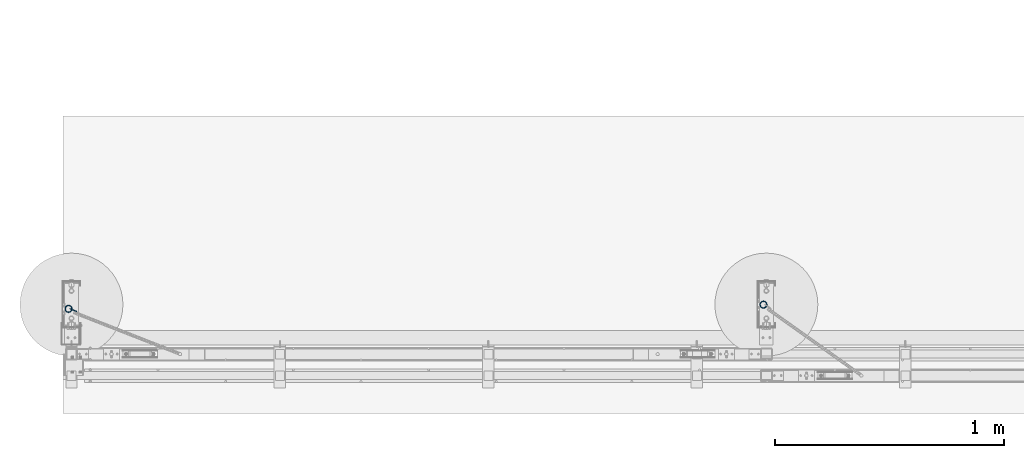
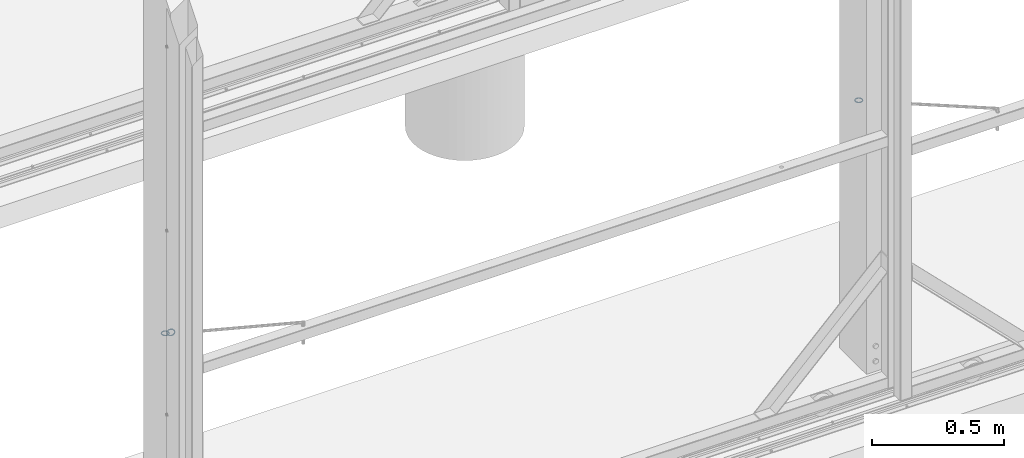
# One storey, part 84 of 91: 3 beams, 3 elements without a shape of their own.
"""IFC2X3 building model written with IfcOpenShell, lengths in millimetres."""

from ifc_helpers import new_model, si_unit, frame, origin_with_axes, place, context, subcontext, project, spatial, faceted_brep, material, type_object, element, aggregate, save


model = new_model("IFC2X3")

# Units and contexts
model_context = context("Model", 3, precision=1e-05, world=origin_with_axes())
body_context = subcontext(model_context, "Body", "Model", "MODEL_VIEW")
ifc_project = project(units=[si_unit("LENGTHUNIT", "METRE", prefix="MILLI"), si_unit("AREAUNIT", "SQUARE_METRE"), si_unit("VOLUMEUNIT", "CUBIC_METRE"), si_unit("MASSUNIT", "GRAM", prefix="KILO"), si_unit("TIMEUNIT", "SECOND"), si_unit("PLANEANGLEUNIT", "RADIAN"), si_unit("SOLIDANGLEUNIT", "STERADIAN"), si_unit("THERMODYNAMICTEMPERATUREUNIT", "DEGREE_CELSIUS"), si_unit("LUMINOUSINTENSITYUNIT", "LUMEN")], contexts=[model_context])

# Site, building, storey
site_placement = place(None, origin_with_axes())
site = spatial("IfcSite", under=ifc_project, at=site_placement, Name="Undefined", CompositionType="ELEMENT")
building_placement = place(site_placement, origin_with_axes())
building = spatial("IfcBuilding", under=site, at=building_placement, Name="Undefined", CompositionType="ELEMENT")
storey_placement = place(building_placement, origin_with_axes())
storey = spatial("IfcBuildingStorey", under=building, at=storey_placement, Name="Undefined", CompositionType="ELEMENT", Elevation=0.0)

# Assembly, beam
assembly_1_placement = place(storey_placement, origin_with_axes())
assembly_1 = element("IfcElementAssembly", 1, at=assembly_1_placement, inside=storey, Name="LINKS", AssemblyPlace="NOTDEFINED", PredefinedType="RIGID_FRAME")
ifc_material = material(Name="STEEL/250")
beam_type = type_object("IfcBeamType", Name="D5", PredefinedType="NOTDEFINED")
beam_1_placement = place(assembly_1_placement, frame((-113786.143040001, 84913.6448728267, 1162.34), z_axis=(0.0, 1.0, 0.0), x_axis=(1.0, 0.0, 0.0)))
beam_1 = element("IfcBeam", 2, at=beam_1_placement, type_object=beam_type, material=ifc_material, Name="LINKS", ObjectType="D5", context=body_context, shape_type="Brep", body=[
    faceted_brep([(31.767766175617, -1.76776700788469, 14.8999996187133), (32.4999992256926, -5.6170392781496e-08, 14.8999996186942), (32.4999992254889, -5.59666659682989e-08, 15.1000003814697), (31.7677661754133, -1.76776700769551, 15.1000003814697), (31.7677661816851, 1.76776689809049, 14.8999996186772), (31.7677661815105, 1.76776689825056, 15.1000003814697), (29.9999992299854, 2.49999994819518, 14.8999996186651), (29.9999992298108, 2.49999994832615, 15.1000003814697), (28.2322322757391, 1.76776690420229, 14.8999996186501), (28.232232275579, 1.76776690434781, 15.1000003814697), (27.4999992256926, -4.74974513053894e-08, 14.8999996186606), (27.4999992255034, -4.73810359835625e-08, 15.1000003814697), (28.2322322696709, -1.76776700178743, 14.8999996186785), (28.2322322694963, -1.76776700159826, 15.1000003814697), (29.999999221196, -2.5000000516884, 14.8999996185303), (29.9999992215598, -2.50000005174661, 15.100000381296), (28.0037777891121, -2.50000004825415, 22.5500001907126), (26.4728467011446, -1.76776699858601, 21.6661167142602), (25.8387142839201, -4.44706529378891e-08, 21.3000001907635), (26.4728467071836, 1.76776690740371, 21.666116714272), (28.0037777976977, 2.49999995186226, 22.5500001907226), (29.5347088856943, 1.76776690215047, 23.4338836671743), (30.1688413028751, -5.19503373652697e-08, 23.8000001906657), (29.5347088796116, -1.76776700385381, 23.4338836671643), (15.1008655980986, -2.49999993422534, 30.0000000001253), (22.5499994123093, -2.50000003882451, 28.0037785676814), (23.43388289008, -1.76776699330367, 29.5347096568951), (15.1008656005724, -1.767766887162, 31.7677669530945), (15.1008656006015, -1.76776688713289, 28.2322330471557), (21.6661159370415, -1.76776699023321, 26.4728474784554), (15.1008656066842, 6.58328644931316e-08, 27.5000000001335), (21.2999994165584, -3.6612618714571e-08, 25.8387150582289), (15.1008670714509, 1.76776695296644, 28.2322330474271), (21.6661159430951, 1.76776691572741, 26.4728474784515), (15.1008656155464, 2.50000006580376, 30.0), (22.5499994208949, 2.49999996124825, 28.0037785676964), (15.1000003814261, 1.76776695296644, 31.767766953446), (23.433882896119, 1.76776691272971, 29.5347096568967), (15.1008656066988, 6.58183125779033e-08, 32.5000000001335), (23.7999994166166, -4.09199856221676e-08, 30.1688420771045), (29.5347088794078, -1.76776700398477, 6.56611633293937), (28.0037777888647, -2.50000004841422, 7.44999980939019), (30.1688413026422, -5.2081304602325e-08, 6.19999980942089), (29.5347088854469, 1.7677669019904, 6.56611633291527), (28.0037777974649, 2.49999995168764, 7.44999980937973), (26.4728467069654, 1.7677669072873, 8.33388328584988), (25.8387142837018, -4.46161720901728e-08, 8.69999980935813), (26.4728467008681, -1.76776699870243, 8.33388328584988), (22.5499994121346, -2.50000003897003, 1.99622143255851), (21.6661159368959, -1.76776699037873, 3.52715252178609), (23.4338828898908, -1.76776699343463, 0.465290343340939), (23.7999994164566, -4.10655047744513e-08, -0.168842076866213), (23.4338828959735, 1.76776691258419, 0.465290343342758), (22.5499994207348, 2.49999996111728, 1.99622143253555), (21.666115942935, 1.76776691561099, 3.52715252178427), (21.2999994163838, -3.67290340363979e-08, 4.16128494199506), (15.100865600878, -1.76776688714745, 1.76776695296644), (15.1008656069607, 6.58183125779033e-08, 2.5), (15.1008655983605, -2.49999993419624, 0.0), (15.100865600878, -1.76776688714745, -1.76776695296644), (15.1008656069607, 6.58183125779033e-08, -2.5), (15.1008670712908, 1.76776695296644, -1.76776695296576), (15.1008656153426, 2.50000006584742, -8.84483597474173e-11), (15.1000003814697, 1.76776695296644, 1.76776695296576), (-1.56690095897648, 1.76776707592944, 14.899999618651), (-2.29913401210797, 1.25408405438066e-07, 14.8999996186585), (-2.2991340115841, 1.25524820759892e-07, 15.1000003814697), (-1.56690095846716, 1.7677670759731, 15.1000003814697), (-1.56690097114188, -1.76776683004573, 14.8999996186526), (-1.56690097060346, -1.76776682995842, 15.1000003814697), (0.200865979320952, -2.49999988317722, 14.8999996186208), (0.200865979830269, -2.49999988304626, 15.1000003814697), (1.96863293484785, -1.76776684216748, 14.8999996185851), (1.96863293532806, -1.76776684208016, 15.1000003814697), (2.70086598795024, 1.08309905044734e-07, 14.899999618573), (2.7008659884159, 1.08382664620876e-07, 15.1000003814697), (1.96863294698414, 1.7677670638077, 14.8999996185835), (1.96863294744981, 1.7677670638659, 15.1000003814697), (0.200865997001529, 2.50000011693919, 14.8999996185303), (0.200865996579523, 2.50000011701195, 15.1000003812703), (2.19708742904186, 2.5000001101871, 22.5500001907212), (3.72801851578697, 1.76776705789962, 21.6661167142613), (4.36215092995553, 1.02707417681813e-07, 21.3000001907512), (3.72801850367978, -1.76776684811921, 21.6661167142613), (2.19708741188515, -2.49999988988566, 22.5500001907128), (0.666156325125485, -1.76776683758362, 23.43388366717), (0.0320239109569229, 1.17594026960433e-07, 23.8000001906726), (0.66615633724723, 1.76776706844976, 23.4338836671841), (7.65086580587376, 2.50000009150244, 28.003778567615), (6.76698232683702, 1.76776704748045, 29.5347096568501), (8.53474927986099, 1.76776704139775, 26.4728474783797), (8.90086579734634, 8.71368683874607e-08, 25.8387150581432), (8.53474926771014, -1.76776686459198, 26.4728474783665), (7.65086578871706, -2.49999990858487, 28.0037785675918), (6.76698231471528, -1.76776685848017, 29.534709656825), (6.40086579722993, 9.57516022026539e-08, 30.1688420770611), (0.66615633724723, 1.76776706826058, 6.56611633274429), (2.19708742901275, 2.50000011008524, 7.44999980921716), (0.032023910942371, 1.1743395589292e-07, 6.19999980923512), (0.666156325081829, -1.76776683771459, 6.5661163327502), (2.19708741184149, -2.49999988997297, 7.44999980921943), (3.72801850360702, -1.76776684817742, 8.33388328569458), (4.36215092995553, 1.02634658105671e-07, 8.69999980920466), (3.72801851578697, 1.76776705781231, 8.33388328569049), (7.65086580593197, 2.50000009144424, 1.99622143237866), (8.5347492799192, 1.76776704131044, 3.52715252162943), (6.76698232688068, 1.76776704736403, 0.465290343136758), (6.40086579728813, 9.5635186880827e-08, -0.168842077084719), (6.76698231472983, -1.76776685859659, 0.465290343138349), (7.65086578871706, -2.49999990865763, 1.99622143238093), (8.53474926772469, -1.76776686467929, 3.52715252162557), (8.90086579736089, 8.70786607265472e-08, 4.16128494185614)], [[[0, 1, 2, 3]], [[1, 4, 5, 2]], [[4, 6, 7, 5]], [[6, 8, 9, 7]], [[8, 10, 11, 9]], [[10, 12, 13, 11]], [[12, 14, 15, 13]], [[13, 15, 16, 17]], [[11, 13, 17, 18]], [[9, 11, 18, 19]], [[7, 9, 19, 20]], [[5, 7, 20, 21]], [[2, 5, 21, 22]], [[3, 2, 22, 23]], [[24, 25, 26, 27]], [[28, 29, 25, 24]], [[30, 31, 29, 28]], [[32, 33, 31, 30]], [[34, 35, 33, 32]], [[36, 37, 35, 34]], [[38, 39, 37, 36]], [[27, 26, 39, 38]], [[22, 39, 26, 23]], [[21, 37, 39, 22]], [[20, 35, 37, 21]], [[19, 33, 35, 20]], [[18, 31, 33, 19]], [[17, 29, 31, 18]], [[16, 25, 29, 17]], [[23, 26, 25, 16]], [[15, 3, 23, 16]], [[14, 0, 3, 15]], [[40, 0, 14, 41]], [[42, 1, 0, 40]], [[43, 4, 1, 42]], [[44, 6, 4, 43]], [[45, 8, 6, 44]], [[46, 10, 8, 45]], [[47, 12, 10, 46]], [[41, 14, 12, 47]], [[48, 41, 47, 49]], [[50, 40, 41, 48]], [[51, 42, 40, 50]], [[52, 43, 42, 51]], [[53, 44, 43, 52]], [[54, 45, 44, 53]], [[55, 46, 45, 54]], [[49, 47, 46, 55]], [[56, 49, 55, 57]], [[58, 48, 49, 56]], [[59, 50, 48, 58]], [[60, 51, 50, 59]], [[61, 52, 51, 60]], [[62, 53, 52, 61]], [[63, 54, 53, 62]], [[57, 55, 54, 63]], [[64, 65, 66, 67]], [[65, 68, 69, 66]], [[68, 70, 71, 69]], [[70, 72, 73, 71]], [[72, 74, 75, 73]], [[74, 76, 77, 75]], [[76, 78, 79, 77]], [[77, 79, 80, 81]], [[75, 77, 81, 82]], [[73, 75, 82, 83]], [[71, 73, 83, 84]], [[69, 71, 84, 85]], [[66, 69, 85, 86]], [[67, 66, 86, 87]], [[88, 89, 36, 34]], [[90, 88, 34, 32]], [[91, 90, 32, 30]], [[92, 91, 30, 28]], [[93, 92, 28, 24]], [[94, 93, 24, 27]], [[95, 94, 27, 38]], [[89, 95, 38, 36]], [[86, 95, 89, 87]], [[85, 94, 95, 86]], [[84, 93, 94, 85]], [[83, 92, 93, 84]], [[82, 91, 92, 83]], [[81, 90, 91, 82]], [[80, 88, 90, 81]], [[87, 89, 88, 80]], [[79, 67, 87, 80]], [[78, 64, 67, 79]], [[96, 64, 78, 97]], [[98, 65, 64, 96]], [[99, 68, 65, 98]], [[100, 70, 68, 99]], [[101, 72, 70, 100]], [[102, 74, 72, 101]], [[103, 76, 74, 102]], [[97, 78, 76, 103]], [[104, 97, 103, 105]], [[106, 96, 97, 104]], [[107, 98, 96, 106]], [[108, 99, 98, 107]], [[109, 100, 99, 108]], [[110, 101, 100, 109]], [[111, 102, 101, 110]], [[105, 103, 102, 111]], [[105, 111, 57, 63]], [[104, 105, 63, 62]], [[106, 104, 62, 61]], [[107, 106, 61, 60]], [[108, 107, 60, 59]], [[109, 108, 59, 58]], [[110, 109, 58, 56]], [[111, 110, 56, 57]]]),
])
aggregate(assembly_1, [beam_1])

assembly_2_placement = place(storey_placement, origin_with_axes())
assembly_2 = element("IfcElementAssembly", 3, at=assembly_2_placement, inside=storey, Name="LINKS", AssemblyPlace="NOTDEFINED", PredefinedType="RIGID_FRAME")
beam_2_placement = place(assembly_2_placement, frame((-116823.643040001, 84894.8948728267, 1162.34), z_axis=(0.0, 1.0, 0.0), x_axis=(1.0, 0.0, 0.0)))
beam_2 = element("IfcBeam", 4, at=beam_2_placement, type_object=beam_type, material=ifc_material, Name="LINKS", ObjectType="D5", context=body_context, shape_type="Brep", body=[
    faceted_brep([(31.767766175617, -1.76776700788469, 14.8999996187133), (32.4999992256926, -5.6170392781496e-08, 14.8999996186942), (32.4999992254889, -5.59666659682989e-08, 15.1000003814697), (31.7677661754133, -1.76776700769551, 15.1000003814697), (31.7677661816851, 1.76776689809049, 14.8999996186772), (31.7677661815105, 1.76776689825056, 15.1000003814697), (29.9999992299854, 2.49999994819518, 14.8999996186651), (29.9999992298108, 2.49999994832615, 15.1000003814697), (28.2322322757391, 1.76776690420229, 14.8999996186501), (28.232232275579, 1.76776690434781, 15.1000003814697), (27.4999992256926, -4.74974513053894e-08, 14.8999996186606), (27.4999992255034, -4.73810359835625e-08, 15.1000003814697), (28.2322322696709, -1.76776700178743, 14.8999996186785), (28.2322322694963, -1.76776700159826, 15.1000003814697), (29.999999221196, -2.5000000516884, 14.8999996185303), (29.9999992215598, -2.50000005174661, 15.100000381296), (28.0037777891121, -2.50000004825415, 22.5500001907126), (26.4728467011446, -1.76776699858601, 21.6661167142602), (25.8387142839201, -4.44706529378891e-08, 21.3000001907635), (26.4728467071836, 1.76776690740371, 21.666116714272), (28.0037777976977, 2.49999995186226, 22.5500001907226), (29.5347088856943, 1.76776690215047, 23.4338836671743), (30.1688413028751, -5.19503373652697e-08, 23.8000001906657), (29.5347088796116, -1.76776700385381, 23.4338836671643), (15.1008655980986, -2.49999993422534, 30.0000000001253), (22.5499994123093, -2.50000003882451, 28.0037785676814), (23.43388289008, -1.76776699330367, 29.5347096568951), (15.1008656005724, -1.767766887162, 31.7677669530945), (15.1008656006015, -1.76776688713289, 28.2322330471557), (21.6661159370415, -1.76776699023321, 26.4728474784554), (15.1008656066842, 6.58328644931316e-08, 27.5000000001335), (21.2999994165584, -3.6612618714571e-08, 25.8387150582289), (15.1008670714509, 1.76776695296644, 28.2322330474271), (21.6661159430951, 1.76776691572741, 26.4728474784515), (15.1008656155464, 2.50000006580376, 30.0), (22.5499994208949, 2.49999996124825, 28.0037785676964), (15.1000003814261, 1.76776695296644, 31.767766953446), (23.433882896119, 1.76776691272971, 29.5347096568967), (15.1008656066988, 6.58183125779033e-08, 32.5000000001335), (23.7999994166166, -4.09199856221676e-08, 30.1688420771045), (29.5347088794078, -1.76776700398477, 6.56611633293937), (28.0037777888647, -2.50000004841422, 7.44999980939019), (30.1688413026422, -5.2081304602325e-08, 6.19999980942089), (29.5347088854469, 1.7677669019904, 6.56611633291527), (28.0037777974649, 2.49999995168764, 7.44999980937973), (26.4728467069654, 1.7677669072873, 8.33388328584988), (25.8387142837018, -4.46161720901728e-08, 8.69999980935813), (26.4728467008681, -1.76776699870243, 8.33388328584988), (22.5499994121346, -2.50000003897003, 1.99622143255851), (21.6661159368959, -1.76776699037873, 3.52715252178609), (23.4338828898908, -1.76776699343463, 0.465290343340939), (23.7999994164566, -4.10655047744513e-08, -0.168842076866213), (23.4338828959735, 1.76776691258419, 0.465290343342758), (22.5499994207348, 2.49999996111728, 1.99622143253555), (21.666115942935, 1.76776691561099, 3.52715252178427), (21.2999994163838, -3.67290340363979e-08, 4.16128494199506), (15.100865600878, -1.76776688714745, 1.76776695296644), (15.1008656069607, 6.58183125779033e-08, 2.5), (15.1008655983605, -2.49999993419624, 0.0), (15.100865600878, -1.76776688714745, -1.76776695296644), (15.1008656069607, 6.58183125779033e-08, -2.5), (15.1008670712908, 1.76776695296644, -1.76776695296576), (15.1008656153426, 2.50000006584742, -8.84483597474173e-11), (15.1000003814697, 1.76776695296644, 1.76776695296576), (-1.56690095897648, 1.76776707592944, 14.899999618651), (-2.29913401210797, 1.25408405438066e-07, 14.8999996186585), (-2.2991340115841, 1.25524820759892e-07, 15.1000003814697), (-1.56690095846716, 1.7677670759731, 15.1000003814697), (-1.56690097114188, -1.76776683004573, 14.8999996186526), (-1.56690097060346, -1.76776682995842, 15.1000003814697), (0.200865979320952, -2.49999988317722, 14.8999996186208), (0.200865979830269, -2.49999988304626, 15.1000003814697), (1.96863293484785, -1.76776684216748, 14.8999996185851), (1.96863293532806, -1.76776684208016, 15.1000003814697), (2.70086598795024, 1.08309905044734e-07, 14.899999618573), (2.7008659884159, 1.08382664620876e-07, 15.1000003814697), (1.96863294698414, 1.7677670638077, 14.8999996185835), (1.96863294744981, 1.7677670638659, 15.1000003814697), (0.200865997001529, 2.50000011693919, 14.8999996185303), (0.200865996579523, 2.50000011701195, 15.1000003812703), (2.19708742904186, 2.5000001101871, 22.5500001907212), (3.72801851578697, 1.76776705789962, 21.6661167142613), (4.36215092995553, 1.02707417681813e-07, 21.3000001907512), (3.72801850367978, -1.76776684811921, 21.6661167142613), (2.19708741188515, -2.49999988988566, 22.5500001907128), (0.666156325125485, -1.76776683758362, 23.43388366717), (0.0320239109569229, 1.17594026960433e-07, 23.8000001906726), (0.66615633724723, 1.76776706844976, 23.4338836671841), (7.65086580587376, 2.50000009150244, 28.003778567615), (6.76698232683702, 1.76776704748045, 29.5347096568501), (8.53474927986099, 1.76776704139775, 26.4728474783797), (8.90086579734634, 8.71368683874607e-08, 25.8387150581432), (8.53474926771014, -1.76776686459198, 26.4728474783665), (7.65086578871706, -2.49999990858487, 28.0037785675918), (6.76698231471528, -1.76776685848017, 29.534709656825), (6.40086579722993, 9.57516022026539e-08, 30.1688420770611), (0.66615633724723, 1.76776706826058, 6.56611633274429), (2.19708742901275, 2.50000011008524, 7.44999980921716), (0.032023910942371, 1.1743395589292e-07, 6.19999980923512), (0.666156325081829, -1.76776683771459, 6.5661163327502), (2.19708741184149, -2.49999988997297, 7.44999980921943), (3.72801850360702, -1.76776684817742, 8.33388328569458), (4.36215092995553, 1.02634658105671e-07, 8.69999980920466), (3.72801851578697, 1.76776705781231, 8.33388328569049), (7.65086580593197, 2.50000009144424, 1.99622143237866), (8.5347492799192, 1.76776704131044, 3.52715252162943), (6.76698232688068, 1.76776704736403, 0.465290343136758), (6.40086579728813, 9.5635186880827e-08, -0.168842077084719), (6.76698231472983, -1.76776685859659, 0.465290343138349), (7.65086578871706, -2.49999990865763, 1.99622143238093), (8.53474926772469, -1.76776686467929, 3.52715252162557), (8.90086579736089, 8.70786607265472e-08, 4.16128494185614)], [[[0, 1, 2, 3]], [[1, 4, 5, 2]], [[4, 6, 7, 5]], [[6, 8, 9, 7]], [[8, 10, 11, 9]], [[10, 12, 13, 11]], [[12, 14, 15, 13]], [[13, 15, 16, 17]], [[11, 13, 17, 18]], [[9, 11, 18, 19]], [[7, 9, 19, 20]], [[5, 7, 20, 21]], [[2, 5, 21, 22]], [[3, 2, 22, 23]], [[24, 25, 26, 27]], [[28, 29, 25, 24]], [[30, 31, 29, 28]], [[32, 33, 31, 30]], [[34, 35, 33, 32]], [[36, 37, 35, 34]], [[38, 39, 37, 36]], [[27, 26, 39, 38]], [[22, 39, 26, 23]], [[21, 37, 39, 22]], [[20, 35, 37, 21]], [[19, 33, 35, 20]], [[18, 31, 33, 19]], [[17, 29, 31, 18]], [[16, 25, 29, 17]], [[23, 26, 25, 16]], [[15, 3, 23, 16]], [[14, 0, 3, 15]], [[40, 0, 14, 41]], [[42, 1, 0, 40]], [[43, 4, 1, 42]], [[44, 6, 4, 43]], [[45, 8, 6, 44]], [[46, 10, 8, 45]], [[47, 12, 10, 46]], [[41, 14, 12, 47]], [[48, 41, 47, 49]], [[50, 40, 41, 48]], [[51, 42, 40, 50]], [[52, 43, 42, 51]], [[53, 44, 43, 52]], [[54, 45, 44, 53]], [[55, 46, 45, 54]], [[49, 47, 46, 55]], [[56, 49, 55, 57]], [[58, 48, 49, 56]], [[59, 50, 48, 58]], [[60, 51, 50, 59]], [[61, 52, 51, 60]], [[62, 53, 52, 61]], [[63, 54, 53, 62]], [[57, 55, 54, 63]], [[64, 65, 66, 67]], [[65, 68, 69, 66]], [[68, 70, 71, 69]], [[70, 72, 73, 71]], [[72, 74, 75, 73]], [[74, 76, 77, 75]], [[76, 78, 79, 77]], [[77, 79, 80, 81]], [[75, 77, 81, 82]], [[73, 75, 82, 83]], [[71, 73, 83, 84]], [[69, 71, 84, 85]], [[66, 69, 85, 86]], [[67, 66, 86, 87]], [[88, 89, 36, 34]], [[90, 88, 34, 32]], [[91, 90, 32, 30]], [[92, 91, 30, 28]], [[93, 92, 28, 24]], [[94, 93, 24, 27]], [[95, 94, 27, 38]], [[89, 95, 38, 36]], [[86, 95, 89, 87]], [[85, 94, 95, 86]], [[84, 93, 94, 85]], [[83, 92, 93, 84]], [[82, 91, 92, 83]], [[81, 90, 91, 82]], [[80, 88, 90, 81]], [[87, 89, 88, 80]], [[79, 67, 87, 80]], [[78, 64, 67, 79]], [[96, 64, 78, 97]], [[98, 65, 64, 96]], [[99, 68, 65, 98]], [[100, 70, 68, 99]], [[101, 72, 70, 100]], [[102, 74, 72, 101]], [[103, 76, 74, 102]], [[97, 78, 76, 103]], [[104, 97, 103, 105]], [[106, 96, 97, 104]], [[107, 98, 96, 106]], [[108, 99, 98, 107]], [[109, 100, 99, 108]], [[110, 101, 100, 109]], [[111, 102, 101, 110]], [[105, 103, 102, 111]], [[105, 111, 57, 63]], [[104, 105, 63, 62]], [[106, 104, 62, 61]], [[107, 106, 61, 60]], [[108, 107, 60, 59]], [[109, 108, 59, 58]], [[110, 109, 58, 56]], [[111, 110, 56, 57]]]),
])
aggregate(assembly_2, [beam_2])

assembly_3_placement = place(storey_placement, origin_with_axes())
assembly_3 = element("IfcElementAssembly", 5, at=assembly_3_placement, inside=storey, Name="LINKS", AssemblyPlace="NOTDEFINED", PredefinedType="RIGID_FRAME")
beam_3_placement = place(assembly_3_placement, frame((-116801.241874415, 84909.7835499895, 1147.33595884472), z_axis=(0.0, 0.0, 1.0), x_axis=(0.931124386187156, -0.364701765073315, 0.0)))
beam_3 = element("IfcBeam", 6, at=beam_3_placement, type_object=beam_type, material=ifc_material, Name="LINKS", ObjectType="D5", context=body_context, shape_type="Brep", body=[
    faceted_brep([(28.2322322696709, -1.76776700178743, 14.8999996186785), (29.999999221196, -2.5000000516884, 14.8999996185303), (29.9999992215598, -2.50000005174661, 15.100000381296), (28.2322322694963, -1.76776700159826, 15.1000003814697), (31.767766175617, -1.76776700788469, 14.8999996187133), (31.7677661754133, -1.76776700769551, 15.1000003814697), (32.4999992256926, -5.6170392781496e-08, 14.8999996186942), (32.4999992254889, -5.59666659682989e-08, 15.1000003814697), (31.7677661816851, 1.76776689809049, 14.8999996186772), (31.7677661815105, 1.76776689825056, 15.1000003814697), (29.9999992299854, 2.49999994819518, 14.8999996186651), (29.9999992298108, 2.49999994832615, 15.1000003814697), (28.2322322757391, 1.76776690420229, 14.8999996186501), (28.232232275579, 1.76776690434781, 15.1000003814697), (27.4999992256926, -4.74974513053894e-08, 14.8999996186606), (27.4999992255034, -4.73810359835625e-08, 15.1000003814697), (25.8387142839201, -4.44706529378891e-08, 21.3000001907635), (26.4728467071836, 1.76776690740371, 21.666116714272), (28.0037777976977, 2.49999995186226, 22.5500001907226), (29.5347088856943, 1.76776690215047, 23.4338836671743), (30.1688413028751, -5.19503373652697e-08, 23.8000001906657), (29.5347088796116, -1.76776700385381, 23.4338836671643), (28.0037777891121, -2.50000004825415, 22.5500001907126), (26.4728467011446, -1.76776699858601, 21.6661167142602), (15.1008655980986, -2.49999993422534, 30.0000000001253), (22.5499994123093, -2.50000003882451, 28.0037785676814), (23.43388289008, -1.76776699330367, 29.5347096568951), (15.1008656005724, -1.767766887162, 31.7677669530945), (23.7999994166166, -4.09199856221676e-08, 30.1688420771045), (15.1008656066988, 6.58183125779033e-08, 32.5000000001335), (23.433882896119, 1.76776691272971, 29.5347096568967), (15.1008656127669, 1.76776701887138, 31.7677669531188), (22.5499994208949, 2.49999996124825, 28.0037785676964), (15.1008656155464, 2.50000006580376, 30.0), (15.1008656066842, 6.58328644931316e-08, 27.5000000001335), (21.2999994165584, -3.6612618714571e-08, 25.8387150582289), (21.6661159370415, -1.76776699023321, 26.4728474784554), (15.1008656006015, -1.76776688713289, 28.2322330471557), (15.0999996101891, 1.76776692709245, 28.2322330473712), (21.6661159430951, 1.76776691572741, 26.4728474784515), (26.4728467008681, -1.76776699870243, 8.33388328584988), (25.8387142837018, -4.46161720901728e-08, 8.69999980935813), (28.0037777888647, -2.50000004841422, 7.44999980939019), (29.5347088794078, -1.76776700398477, 6.56611633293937), (30.1688413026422, -5.2081304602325e-08, 6.19999980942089), (29.5347088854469, 1.7677669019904, 6.56611633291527), (28.0037777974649, 2.49999995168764, 7.44999980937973), (26.4728467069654, 1.7677669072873, 8.33388328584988), (21.2999994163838, -3.67290340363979e-08, 4.16128494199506), (21.666115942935, 1.76776691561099, 3.52715252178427), (21.6661159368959, -1.76776699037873, 3.52715252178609), (22.5499994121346, -2.50000003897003, 1.99622143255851), (23.4338828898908, -1.76776699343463, 0.465290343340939), (23.7999994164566, -4.10655047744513e-08, -0.168842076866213), (23.4338828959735, 1.76776691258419, 0.465290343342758), (22.5499994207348, 2.49999996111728, 1.99622143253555), (15.1008656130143, 1.76776701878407, 1.76776695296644), (15.1008656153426, 2.50000006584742, -8.84483597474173e-11), (15.1008656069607, 6.58183125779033e-08, 2.5), (15.100865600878, -1.76776688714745, 1.76776695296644), (15.1008655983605, -2.49999993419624, 0.0), (15.100865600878, -1.76776688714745, -1.76776695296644), (15.1008656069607, 6.58183125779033e-08, -2.5), (15.0999996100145, 1.76776692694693, -1.76776695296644), (-1.56690097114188, -1.76776683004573, 14.8999996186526), (0.200865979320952, -2.49999988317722, 14.8999996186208), (0.200865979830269, -2.49999988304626, 15.1000003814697), (-1.56690097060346, -1.76776682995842, 15.1000003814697), (1.96863293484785, -1.76776684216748, 14.8999996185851), (1.96863293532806, -1.76776684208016, 15.1000003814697), (2.70086598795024, 1.08309905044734e-07, 14.899999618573), (2.7008659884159, 1.08382664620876e-07, 15.1000003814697), (1.96863294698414, 1.7677670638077, 14.8999996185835), (1.96863294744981, 1.7677670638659, 15.1000003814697), (0.200865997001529, 2.50000011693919, 14.8999996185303), (0.200865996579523, 2.50000011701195, 15.1000003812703), (-1.56690095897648, 1.76776707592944, 14.899999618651), (-1.56690095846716, 1.7677670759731, 15.1000003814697), (-2.29913401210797, 1.25408405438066e-07, 14.8999996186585), (-2.2991340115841, 1.25524820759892e-07, 15.1000003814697), (0.0320239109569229, 1.17594026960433e-07, 23.8000001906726), (0.66615633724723, 1.76776706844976, 23.4338836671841), (2.19708742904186, 2.5000001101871, 22.5500001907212), (3.72801851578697, 1.76776705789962, 21.6661167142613), (4.36215092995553, 1.02707417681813e-07, 21.3000001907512), (3.72801850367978, -1.76776684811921, 21.6661167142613), (2.19708741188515, -2.49999988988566, 22.5500001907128), (0.666156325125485, -1.76776683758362, 23.43388366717), (7.65086578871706, -2.49999990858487, 28.0037785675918), (8.53474926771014, -1.76776686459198, 26.4728474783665), (8.90086579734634, 8.71368683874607e-08, 25.8387150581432), (8.53474927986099, 1.76776704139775, 26.4728474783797), (7.65086580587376, 2.50000009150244, 28.003778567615), (6.40086579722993, 9.57516022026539e-08, 30.1688420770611), (6.76698231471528, -1.76776685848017, 29.534709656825), (6.76698232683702, 1.76776704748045, 29.5347096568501), (0.666156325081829, -1.76776683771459, 6.5661163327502), (0.032023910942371, 1.1743395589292e-07, 6.19999980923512), (2.19708741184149, -2.49999988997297, 7.44999980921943), (3.72801850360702, -1.76776684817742, 8.33388328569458), (4.36215092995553, 1.02634658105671e-07, 8.69999980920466), (3.72801851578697, 1.76776705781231, 8.33388328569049), (2.19708742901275, 2.50000011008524, 7.44999980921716), (0.66615633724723, 1.76776706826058, 6.56611633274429), (6.40086579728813, 9.5635186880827e-08, -0.168842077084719), (6.76698232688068, 1.76776704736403, 0.465290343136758), (6.76698231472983, -1.76776685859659, 0.465290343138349), (7.65086578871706, -2.49999990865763, 1.99622143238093), (8.53474926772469, -1.76776686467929, 3.52715252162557), (8.90086579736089, 8.70786607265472e-08, 4.16128494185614), (8.5347492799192, 1.76776704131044, 3.52715252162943), (7.65086580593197, 2.50000009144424, 1.99622143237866)], [[[0, 1, 2, 3]], [[1, 4, 5, 2]], [[4, 6, 7, 5]], [[6, 8, 9, 7]], [[8, 10, 11, 9]], [[10, 12, 13, 11]], [[12, 14, 15, 13]], [[13, 15, 16, 17]], [[11, 13, 17, 18]], [[9, 11, 18, 19]], [[7, 9, 19, 20]], [[5, 7, 20, 21]], [[2, 5, 21, 22]], [[3, 2, 22, 23]], [[24, 25, 26, 27]], [[27, 26, 28, 29]], [[29, 28, 30, 31]], [[31, 30, 32, 33]], [[34, 35, 36, 37]], [[38, 39, 35, 34]], [[33, 32, 39, 38]], [[37, 36, 25, 24]], [[22, 25, 36, 23]], [[21, 26, 25, 22]], [[20, 28, 26, 21]], [[19, 30, 28, 20]], [[18, 32, 30, 19]], [[17, 39, 32, 18]], [[16, 35, 39, 17]], [[23, 36, 35, 16]], [[15, 3, 23, 16]], [[14, 0, 3, 15]], [[40, 0, 14, 41]], [[42, 1, 0, 40]], [[43, 4, 1, 42]], [[44, 6, 4, 43]], [[45, 8, 6, 44]], [[46, 10, 8, 45]], [[47, 12, 10, 46]], [[41, 14, 12, 47]], [[48, 41, 47, 49]], [[50, 40, 41, 48]], [[51, 42, 40, 50]], [[52, 43, 42, 51]], [[53, 44, 43, 52]], [[54, 45, 44, 53]], [[55, 46, 45, 54]], [[49, 47, 46, 55]], [[56, 49, 55, 57]], [[58, 48, 49, 56]], [[59, 50, 48, 58]], [[60, 51, 50, 59]], [[61, 52, 51, 60]], [[62, 53, 52, 61]], [[63, 54, 53, 62]], [[57, 55, 54, 63]], [[64, 65, 66, 67]], [[65, 68, 69, 66]], [[68, 70, 71, 69]], [[70, 72, 73, 71]], [[72, 74, 75, 73]], [[74, 76, 77, 75]], [[76, 78, 79, 77]], [[77, 79, 80, 81]], [[75, 77, 81, 82]], [[73, 75, 82, 83]], [[71, 73, 83, 84]], [[69, 71, 84, 85]], [[66, 69, 85, 86]], [[67, 66, 86, 87]], [[88, 89, 37, 24]], [[89, 90, 34, 37]], [[90, 91, 38, 34]], [[91, 92, 33, 38]], [[93, 94, 27, 29]], [[95, 93, 29, 31]], [[92, 95, 31, 33]], [[94, 88, 24, 27]], [[86, 88, 94, 87]], [[85, 89, 88, 86]], [[84, 90, 89, 85]], [[83, 91, 90, 84]], [[82, 92, 91, 83]], [[81, 95, 92, 82]], [[80, 93, 95, 81]], [[87, 94, 93, 80]], [[79, 67, 87, 80]], [[78, 64, 67, 79]], [[96, 64, 78, 97]], [[98, 65, 64, 96]], [[99, 68, 65, 98]], [[100, 70, 68, 99]], [[101, 72, 70, 100]], [[102, 74, 72, 101]], [[103, 76, 74, 102]], [[97, 78, 76, 103]], [[104, 97, 103, 105]], [[106, 96, 97, 104]], [[107, 98, 96, 106]], [[108, 99, 98, 107]], [[109, 100, 99, 108]], [[110, 101, 100, 109]], [[111, 102, 101, 110]], [[105, 103, 102, 111]], [[105, 111, 57, 63]], [[104, 105, 63, 62]], [[106, 104, 62, 61]], [[107, 106, 61, 60]], [[108, 107, 60, 59]], [[109, 108, 59, 58]], [[110, 109, 58, 56]], [[111, 110, 56, 57]]]),
])
aggregate(assembly_3, [beam_3])

save(model, "model.ifc")
